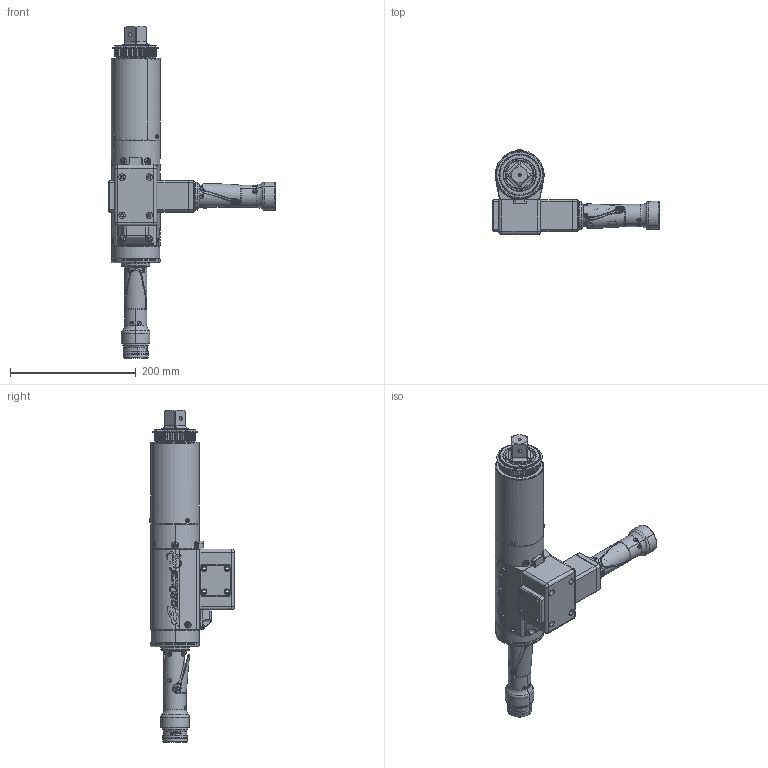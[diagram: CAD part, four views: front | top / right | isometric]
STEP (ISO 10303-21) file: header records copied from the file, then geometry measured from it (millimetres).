
FILE_DESCRIPTION (( 'STEP AP214' ), '1' );
FILE_NAME ('AES4B772500BDLL.STEP', '2022-07-15T18:19:25', ( '' ), ( '' ), 'SwSTEP 2.0', 'SolidWorks 2022', '' );
FILE_SCHEMA (( 'AUTOMOTIVE_DESIGN' ));
Length unit declared in the file: inch
Products named in the file (1): AES4B772500BDLL
Bounding box: 264.78 x 135.01 x 527.73 mm (x, y, z)
Surface area: 265913.8 mm2 (no closed solid volume)
Topology: 0 solids, 159 shells, 1596 faces, 6109 edges, 4437 vertices
Faces by surface type: cylinder 485, plane 448, cone 234, bspline 216, torus 199, sphere 14
Entity records: 147628 total; most frequent: CARTESIAN_POINT 80749, ORIENTED_EDGE 9156, DIRECTION 8473, EDGE_CURVE 6103, VERTEX_POINT 4437, AXIS2_PLACEMENT_3D 3219, LINE 2035, VECTOR 2035
